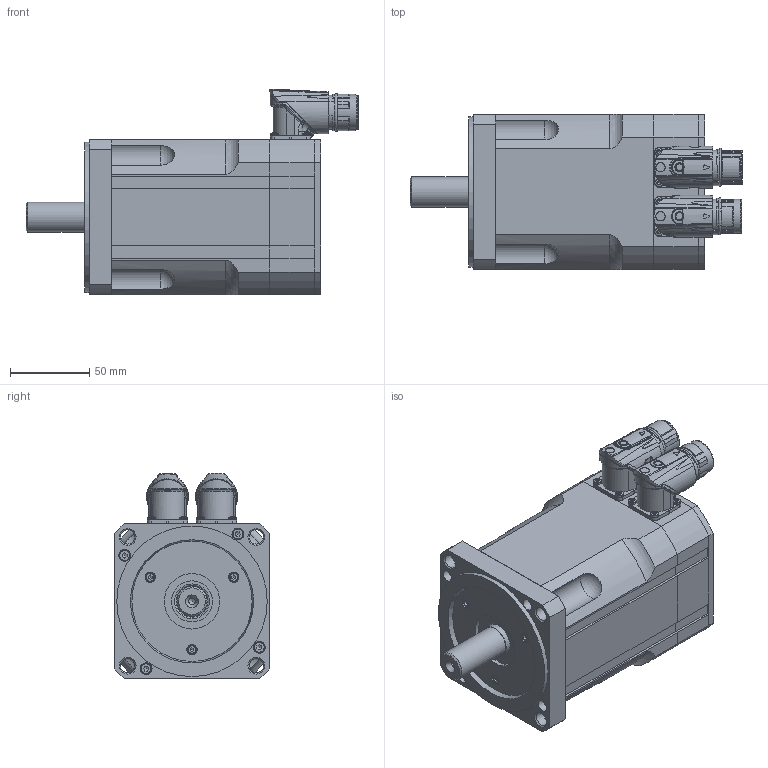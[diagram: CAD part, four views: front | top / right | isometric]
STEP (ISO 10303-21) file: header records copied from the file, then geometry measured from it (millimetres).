
FILE_DESCRIPTION(/* description */ (''),/* implementation_level */ '2;1');
FILE_NAME(/* name */ 'C:\PDF_output\T4000 00 Z_0260_S2_8P_12P.stp',/* time_stamp */ '2018-02-06T08:13:25+01:00',/* author */ ('oslejsek'),/* organization */ (''),/* preprocessor_version */ 'ST-DEVELOPER v17',/* originating_system */ 'Autodesk Inventor 2018',/* authorisation */ '');
FILE_SCHEMA (('AUTOMOTIVE_DESIGN { 1 0 10303 214 3 1 1 }'));
Products named in the file (5): T4000 00 Z_0260_S2_8P_12P; T4000 00 Z_front; T4000 00 Z_0260_rear; 125092; 125766
Assembly tree (4 placements, depth 2):
  T4000 00 Z_0260_S2_8P_12P
    T4000 00 Z_front
    T4000 00 Z_0260_rear
    125092
    125766
Bounding box: 209.67 x 98 x 130 mm (x, y, z)
Volume: 1359037.1 mm3; surface area: 118522.9 mm2
Topology: 4 solids, 7 shells, 1678 faces, 4423 edges, 2816 vertices
Faces by surface type: cylinder 690, plane 487, bspline 264, cone 116, torus 85, sphere 36
Full cylindrical faces by diameter (mm): 1 x16, 1.18 x12, 1.2 x12, 1.3 x4, 2 x4, 2.013 x2, 2.15 x4, 2.208 x8, 2.4 x8, 2.5 x8, 2.7 x8, 3 x8, 3.3 x3, 3.95 x4, 4 x4, 4.134 x1, 4.3 x4, 4.5 x2, 5.5 x3, 5.8 x1, 5.9 x2, 6.5 x3, 6.8 x1, 7 x4, 7.5 x4, 8 x5, 8.5 x4, 9 x4, 15.2 x1, 16 x1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
Entity records: 66620 total; most frequent: CARTESIAN_POINT 23920, ORIENTED_EDGE 8772, DIRECTION 8551, EDGE_CURVE 4386, AXIS2_PLACEMENT_3D 3574, VERTEX_POINT 2816, CIRCLE 1976, EDGE_LOOP 1880
